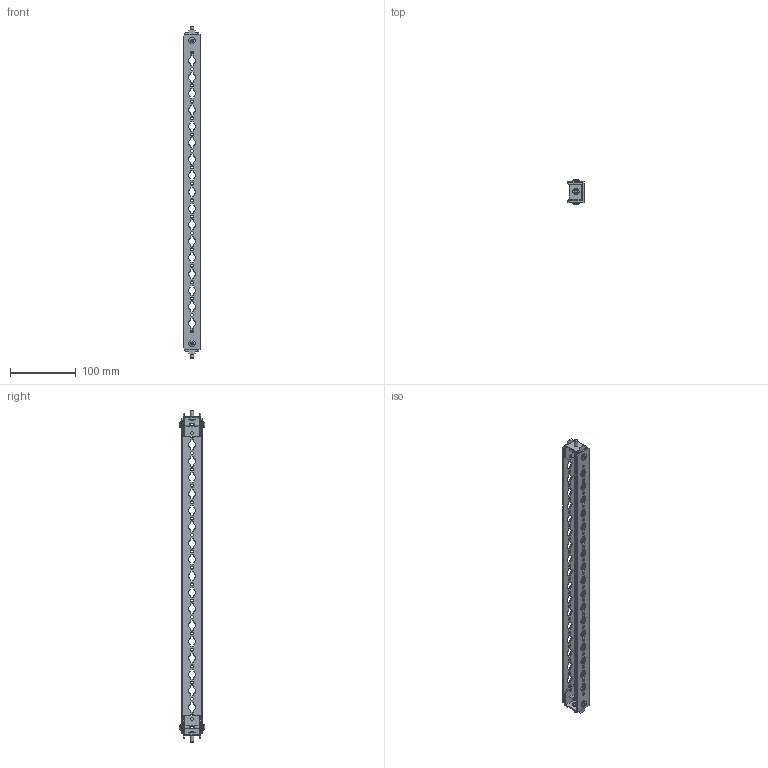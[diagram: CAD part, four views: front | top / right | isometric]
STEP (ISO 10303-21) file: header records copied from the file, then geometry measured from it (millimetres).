
FILE_DESCRIPTION(('Open CASCADE Model'),'2;1');
FILE_NAME('Open CASCADE Shape Model','2025-02-21T09:28:30',('Author'),( 'Open CASCADE'),'Open CASCADE STEP processor 7.8','Open CASCADE 7.8' ,'Unknown');
FILE_SCHEMA(('AUTOMOTIVE_DESIGN { 1 0 10303 214 1 1 1 1 }'));
Length unit declared in the file: millimetre
Products named in the file (4): Compound1; Solid1; Solid2; Solid3
Assembly tree (9 placements, depth 2):
  Compound1
    Solid1
    Solid2  x2
    Solid3  x6
Bounding box: 25 x 38.62 x 506 mm (x, y, z)
Volume: 73406.4 mm3; surface area: 83071.4 mm2
Topology: 9 solids, 9 shells, 1104 faces, 3229 edges, 2149 vertices
Faces by surface type: cylinder 596, plane 472, torus 12, cone 12, sphere 6, bspline 6
Full cylindrical faces by diameter (mm): 4.4 x54, 4.5 x12, 5 x6, 5.5 x2, 6 x6, 9.5 x6
Entity records: 34162 total; most frequent: CARTESIAN_POINT 6291, DIRECTION 6000, ORIENTED_EDGE 5834, EDGE_CURVE 2917, AXIS2_PLACEMENT_3D 2187, VERTEX_POINT 1956, LINE 1626, VECTOR 1626
